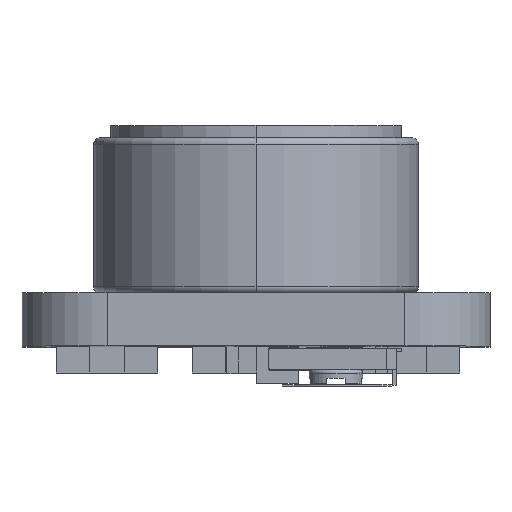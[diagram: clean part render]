
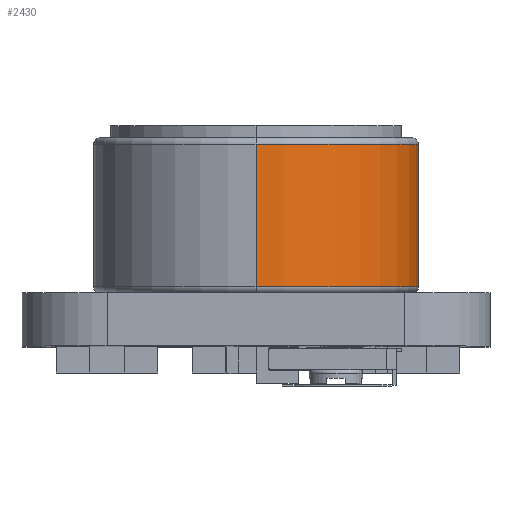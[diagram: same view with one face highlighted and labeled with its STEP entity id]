
A CAD part, top view. The second image highlights one B-rep face of the part: STEP entity #2430.
In plain terms, the highlighted cylindrical face has radius 4.85 mm (diameter 9.7 mm), a partial arc.
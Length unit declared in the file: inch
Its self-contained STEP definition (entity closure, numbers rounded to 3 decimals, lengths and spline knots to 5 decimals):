
#597 = CARTESIAN_POINT ( 'NONE',  ( 0., 0.24567, -0.13 ) ) ;
#820 = FACE_OUTER_BOUND ( 'NONE', #2409, .T. ) ;
#927 = EDGE_CURVE ( 'NONE', #13003, #10093, #1309, .T. ) ;
#949 = LINE ( 'NONE', #11525, #5840 ) ;
#1309 = CIRCLE ( 'NONE', #2004, 0.19094 ) ;
#1420 = LINE ( 'NONE', #12435, #13827 ) ;
#2004 = AXIS2_PLACEMENT_3D ( 'NONE', #2688, #10988, #8564 ) ;
#2409 = EDGE_LOOP ( 'NONE', ( #6665, #6414, #10564, #2435 ) ) ;
#2430 = ADVANCED_FACE ( 'NONE', ( #820 ), #5901, .T. ) ;
#2435 = ORIENTED_EDGE ( 'NONE', *, *, #5577, .F. ) ;
#2618 = AXIS2_PLACEMENT_3D ( 'NONE', #4444, #6759, #5598 ) ;
#2651 = CARTESIAN_POINT ( 'NONE',  ( 0., 0.2378, -0.32094 ) ) ;
#2688 = CARTESIAN_POINT ( 'NONE',  ( 0., 0.2378, -0.13 ) ) ;
#3642 = EDGE_CURVE ( 'NONE', #10093, #4056, #949, .T. ) ;
#4056 = VERTEX_POINT ( 'NONE', #6882 ) ;
#4444 = CARTESIAN_POINT ( 'NONE',  ( 0., 0.07047, -0.13 ) ) ;
#4534 = EDGE_CURVE ( 'NONE', #4056, #12833, #5813, .T. ) ;
#5577 = EDGE_CURVE ( 'NONE', #13003, #12833, #1420, .T. ) ;
#5598 = DIRECTION ( 'NONE',  ( 0., 0., 1. ) ) ;
#5813 = CIRCLE ( 'NONE', #2618, 0.19094 ) ;
#5840 = VECTOR ( 'NONE', #10395, 39.37008 ) ;
#5901 = CYLINDRICAL_SURFACE ( 'NONE', #6134, 0.19094 ) ;
#6134 = AXIS2_PLACEMENT_3D ( 'NONE', #597, #9760, #13335 ) ;
#6414 = ORIENTED_EDGE ( 'NONE', *, *, #3642, .T. ) ;
#6665 = ORIENTED_EDGE ( 'NONE', *, *, #927, .T. ) ;
#6759 = DIRECTION ( 'NONE',  ( 0., 1., 0. ) ) ;
#6882 = CARTESIAN_POINT ( 'NONE',  ( 0., 0.07047, 0.06094 ) ) ;
#8564 = DIRECTION ( 'NONE',  ( 0., 0., 1. ) ) ;
#8933 = CARTESIAN_POINT ( 'NONE',  ( 0., 0.07047, -0.32094 ) ) ;
#9760 = DIRECTION ( 'NONE',  ( 0., -1., 0. ) ) ;
#10093 = VERTEX_POINT ( 'NONE', #10445 ) ;
#10395 = DIRECTION ( 'NONE',  ( 0., -1., 0. ) ) ;
#10445 = CARTESIAN_POINT ( 'NONE',  ( 0., 0.2378, 0.06094 ) ) ;
#10564 = ORIENTED_EDGE ( 'NONE', *, *, #4534, .T. ) ;
#10988 = DIRECTION ( 'NONE',  ( 0., -1., 0. ) ) ;
#11525 = CARTESIAN_POINT ( 'NONE',  ( 0., 0.24567, 0.06094 ) ) ;
#12435 = CARTESIAN_POINT ( 'NONE',  ( 0., 0.24567, -0.32094 ) ) ;
#12833 = VERTEX_POINT ( 'NONE', #8933 ) ;
#13003 = VERTEX_POINT ( 'NONE', #2651 ) ;
#13335 = DIRECTION ( 'NONE',  ( 0., 0., -1. ) ) ;
#13827 = VECTOR ( 'NONE', #14848, 39.37008 ) ;
#14848 = DIRECTION ( 'NONE',  ( 0., -1., 0. ) ) ;
